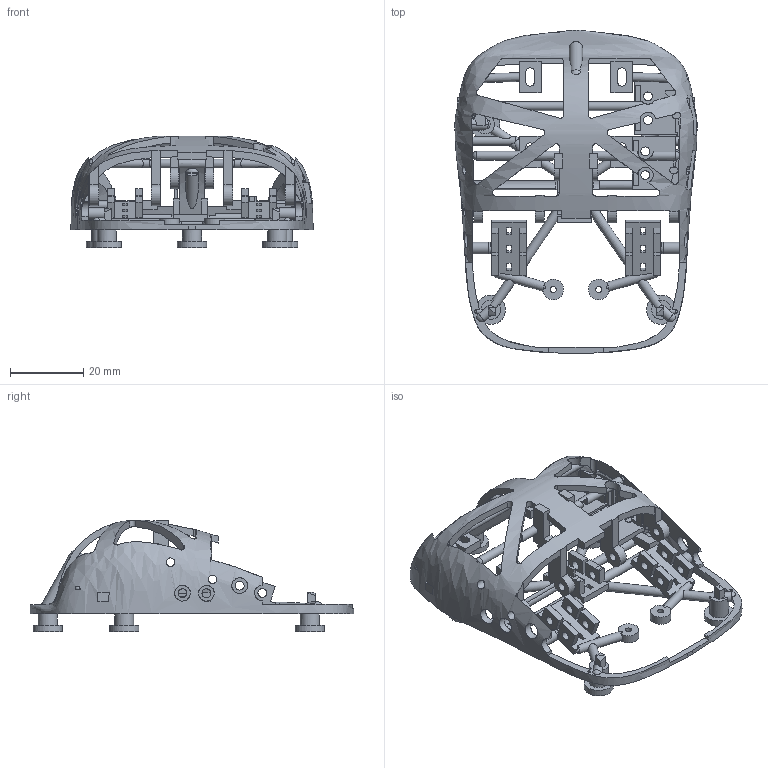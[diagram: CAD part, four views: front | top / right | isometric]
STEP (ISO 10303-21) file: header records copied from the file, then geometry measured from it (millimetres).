
FILE_DESCRIPTION(('Open CASCADE Model'),'2;1');
FILE_NAME('Open CASCADE Shape Model','2026-10-16T20:10:37',('Author'),( 'Open CASCADE'),'Open CASCADE STEP processor 7.9','Open CASCADE 7.9' ,'Unknown');
FILE_SCHEMA(('AUTOMOTIVE_DESIGN { 1 0 10303 214 1 1 1 1 }'));
Products named in the file (1): Open CASCADE STEP translator 7.9 2
Bounding box: 66.07 x 88.24 x 30.48 mm (x, y, z)
Volume: 13632.9 mm3; surface area: 18772.1 mm2
Topology: 1 solids, 1 shells, 783 faces, 2421 edges, 1590 vertices
Faces by surface type: plane 565, cylinder 174, sphere 40, bspline 4
Full cylindrical faces by diameter (mm): 1.7 x2, 2.35 x9, 2.4 x24, 2.5 x3, 2.6 x9, 3.2 x2, 4.3 x3, 5.2 x5, 8 x5
Entity records: 191193 total; most frequent: CARTESIAN_POINT 146839, DIRECTION 7353, ORIENTED_EDGE 4802, PCURVE 4802, DEFINITIONAL_REPRESENTATION 4802, LINE 4627, VECTOR 4627, EDGE_CURVE 2401
